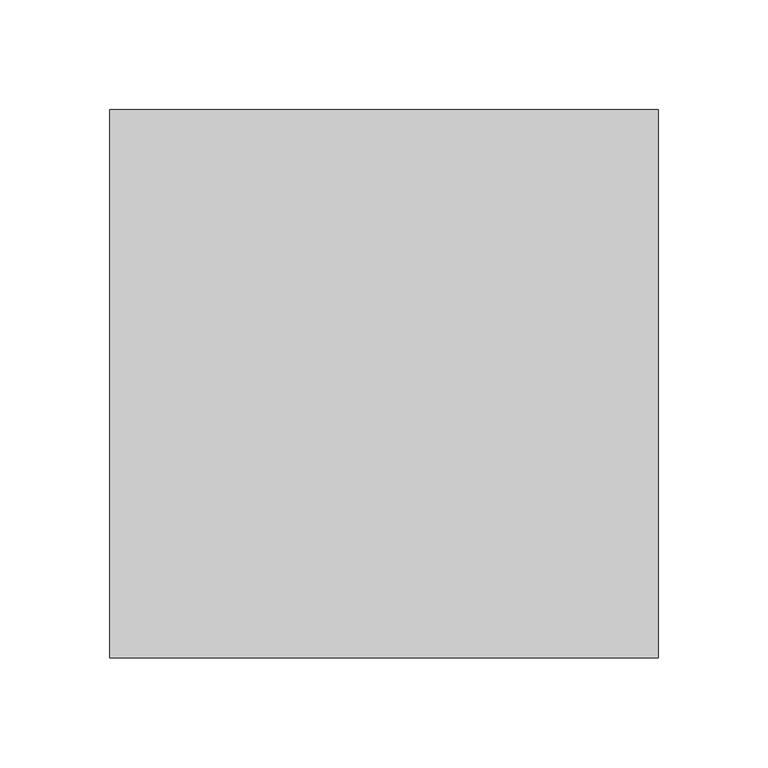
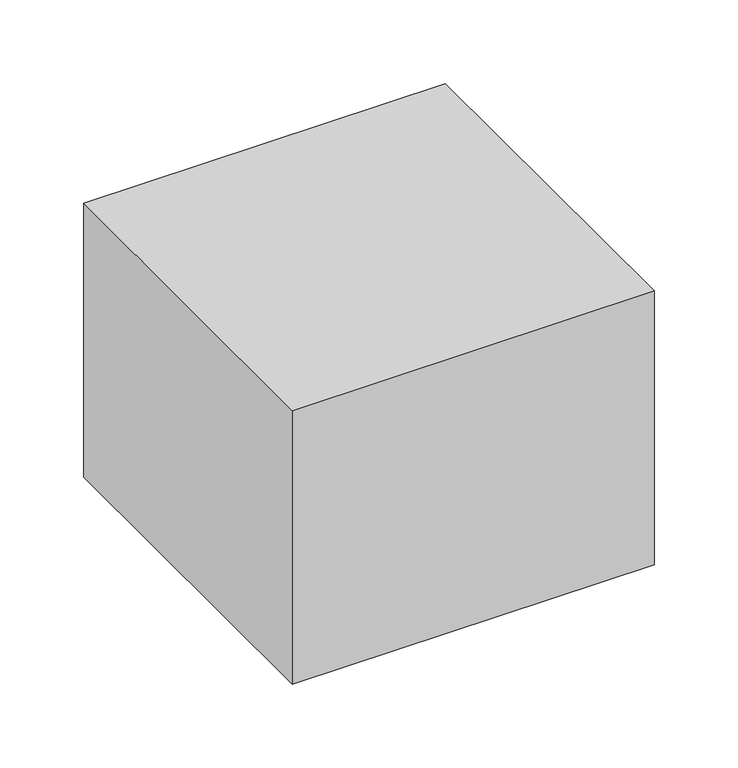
"""IFC4 building model written with IfcOpenShell, lengths in millimetres: proxy geometry, ▲GM_Зона обслуживания : Тип."""

from ifc_helpers import new_model, si_unit, origin, origin_with_axes, place, context, project, spatial, polyline, outline, extrude, source, transform, mapped, element, save


def generic_models_930feccb(model_context):
    return source(origin(), model_context, "Body", "SweptSolid", [
        extrude(outline(polyline([(250.0, -250.0), (0.0, -250.0), (0.0, 0.0), (250.0, 0.0), (250.0, -250.0)])), origin_with_axes(), (0.0, 0.0, 1.0), 200.0),
    ])


if __name__ == "__main__":
    model = new_model("IFC4")
    model_context = context("Model", 3, world=origin())
    ifc_project = project(units=[si_unit("LENGTHUNIT", "METRE", prefix="MILLI")], contexts=[model_context])
    site = spatial("IfcSite", under=ifc_project)
    building = spatial("IfcBuilding", under=site)
    placement = place(None, origin())
    generic_models_shape = generic_models_930feccb(model_context)
    element("IfcBuildingElementProxy", 1, Name="▲GM_Зона обслуживания : Тип", ObjectType="▲GM_Зона обслуживания : Тип", at=placement, inside=building, context=model_context, shape_type="MappedRepresentation", body=[
        mapped(generic_models_shape, transform((0.0, 0.0, 0.0), x_axis=(1.0, 0.0, 0.0), y_axis=(0.0, 1.0, 0.0), z_axis=(0.0, 0.0, 1.0))),
    ])
    save(model, "model.ifc")
